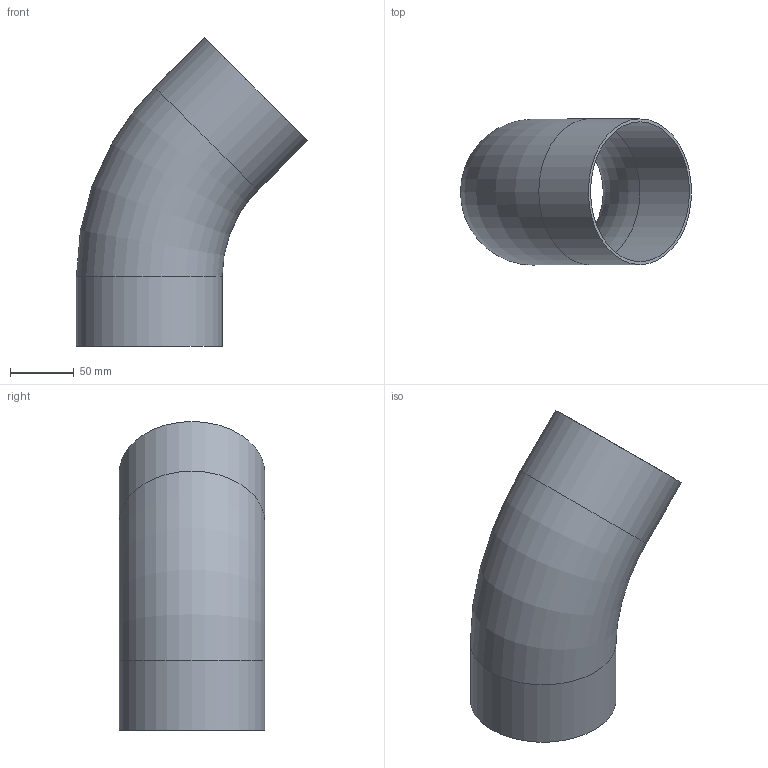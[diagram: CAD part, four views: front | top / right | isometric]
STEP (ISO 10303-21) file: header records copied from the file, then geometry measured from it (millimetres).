
FILE_DESCRIPTION(('Elbow 114,3x2,3_45 deg-Version 00'),'2;1');
FILE_NAME('E045_114,3x2,3_MR152,5_L118,2_00.stp','2013-09-04T12:25:40',(''),('DOCKWEILER AG'),'Autodesk Inventor 2012','Autodesk Inventor 2012','');
FILE_SCHEMA(('CONFIG_CONTROL_DESIGN'));
Length unit declared in the file: millimetre
Products named in the file (1): N0001_003_001
Bounding box: 181.14 x 114.3 x 242.19 mm (x, y, z)
Volume: 186002 mm3; surface area: 163359.5 mm2
Topology: 1 solids, 1 shells, 8 faces, 14 edges, 8 vertices
Faces by surface type: cylinder 4, torus 2, plane 2
Full cylindrical faces by diameter (mm): 109.7 x2, 114.3 x2
Entity records: 194 total; most frequent: DIRECTION 34, CARTESIAN_POINT 25, AXIS2_PLACEMENT_3D 17, ORIENTED_EDGE 16, EDGE_LOOP 16, VERTEX_POINT 8, CIRCLE 8, EDGE_CURVE 8
